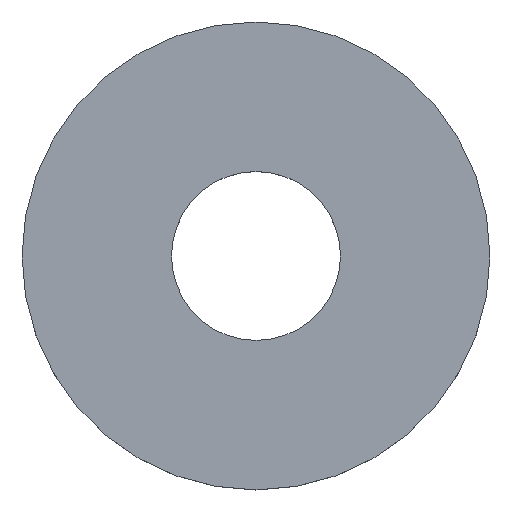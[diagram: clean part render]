
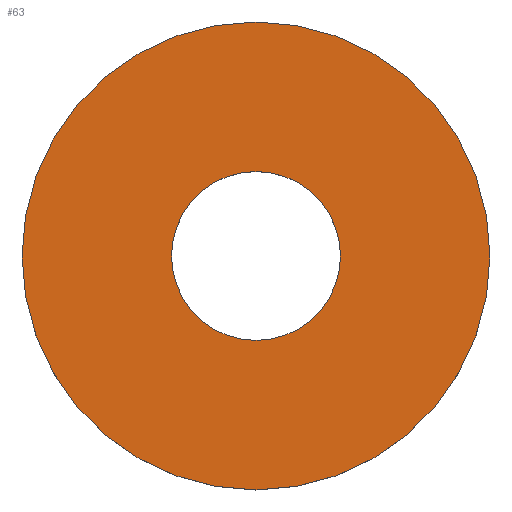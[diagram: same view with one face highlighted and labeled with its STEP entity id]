
A CAD part, top view. The second image highlights one B-rep face of the part: STEP entity #63.
In plain terms, the highlighted planar face has unit normal (0, 0, 1).
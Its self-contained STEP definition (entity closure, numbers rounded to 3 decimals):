
#3 = CARTESIAN_POINT ( 'NONE',  ( 0., 0., 0.75 ) ) ;
#5 = DIRECTION ( 'NONE',  ( 1., 0., 0. ) ) ;
#8 = CARTESIAN_POINT ( 'NONE',  ( -3.25, 0., 0.75 ) ) ;
#9 = VERTEX_POINT ( 'NONE', #78 ) ;
#10 = DIRECTION ( 'NONE',  ( 0., 0., 1. ) ) ;
#24 = VERTEX_POINT ( 'NONE', #62 ) ;
#32 = DIRECTION ( 'NONE',  ( 1., 0., 0. ) ) ;
#33 = VERTEX_POINT ( 'NONE', #240 ) ;
#39 = CIRCLE ( 'NONE', #40, 3.25 ) ;
#40 = AXIS2_PLACEMENT_3D ( 'NONE', #3, #241, #117 ) ;
#46 = PLANE ( 'NONE',  #189 ) ;
#49 = DIRECTION ( 'NONE',  ( 0., 0., 1. ) ) ;
#50 = AXIS2_PLACEMENT_3D ( 'NONE', #99, #222, #32 ) ;
#58 = ORIENTED_EDGE ( 'NONE', *, *, #87, .F. ) ;
#62 = CARTESIAN_POINT ( 'NONE',  ( 9., 0., 0.75 ) ) ;
#63 = ADVANCED_FACE ( 'NONE', ( #205, #236 ), #46, .T. ) ;
#72 = CIRCLE ( 'NONE', #50, 3.25 ) ;
#78 = CARTESIAN_POINT ( 'NONE',  ( 3.25, 0., 0.75 ) ) ;
#86 = CIRCLE ( 'NONE', #116, 9. ) ;
#87 = EDGE_CURVE ( 'NONE', #9, #91, #39, .T. ) ;
#91 = VERTEX_POINT ( 'NONE', #8 ) ;
#98 = DIRECTION ( 'NONE',  ( 0., 0., 1. ) ) ;
#99 = CARTESIAN_POINT ( 'NONE',  ( 0., 0., 0.75 ) ) ;
#110 = EDGE_LOOP ( 'NONE', ( #247, #58 ) ) ;
#115 = CARTESIAN_POINT ( 'NONE',  ( 0., 0., 0.75 ) ) ;
#116 = AXIS2_PLACEMENT_3D ( 'NONE', #121, #98, #245 ) ;
#117 = DIRECTION ( 'NONE',  ( 1., 0., 0. ) ) ;
#121 = CARTESIAN_POINT ( 'NONE',  ( 0., 0., 0.75 ) ) ;
#129 = ORIENTED_EDGE ( 'NONE', *, *, #173, .T. ) ;
#141 = DIRECTION ( 'NONE',  ( 1., 0., 0. ) ) ;
#150 = CIRCLE ( 'NONE', #242, 9. ) ;
#161 = CARTESIAN_POINT ( 'NONE',  ( 0., 0., 0.75 ) ) ;
#162 = ORIENTED_EDGE ( 'NONE', *, *, #203, .T. ) ;
#173 = EDGE_CURVE ( 'NONE', #33, #24, #150, .T. ) ;
#177 = EDGE_LOOP ( 'NONE', ( #129, #162 ) ) ;
#189 = AXIS2_PLACEMENT_3D ( 'NONE', #115, #10, #5 ) ;
#195 = EDGE_CURVE ( 'NONE', #91, #9, #72, .T. ) ;
#203 = EDGE_CURVE ( 'NONE', #24, #33, #86, .T. ) ;
#205 = FACE_OUTER_BOUND ( 'NONE', #177, .T. ) ;
#222 = DIRECTION ( 'NONE',  ( 0., 0., 1. ) ) ;
#236 = FACE_BOUND ( 'NONE', #110, .T. ) ;
#240 = CARTESIAN_POINT ( 'NONE',  ( -9., 0., 0.75 ) ) ;
#241 = DIRECTION ( 'NONE',  ( 0., 0., 1. ) ) ;
#242 = AXIS2_PLACEMENT_3D ( 'NONE', #161, #49, #141 ) ;
#245 = DIRECTION ( 'NONE',  ( 1., 0., 0. ) ) ;
#247 = ORIENTED_EDGE ( 'NONE', *, *, #195, .F. ) ;
